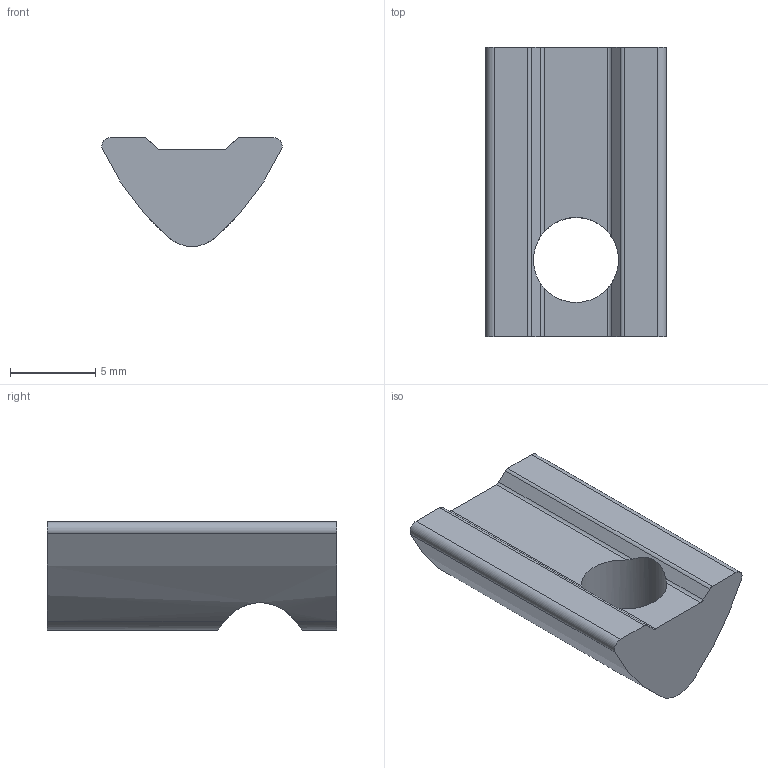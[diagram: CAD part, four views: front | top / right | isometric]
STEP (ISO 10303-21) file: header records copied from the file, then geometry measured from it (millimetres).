
FILE_DESCRIPTION( ( 'Unknown' ), '1' );
FILE_NAME( 'C:/Users/Fabrizio/Desktop/DISEGNI ACCESSORI FP SOLIDEDGE/CA.02.05.005.stp', 'Unknown', ( 'Unknown' ), ( 'Unknown' ), 'PSStep 13.0', 'Unknown', ' ' );
FILE_SCHEMA( ( 'AUTOMOTIVE_DESIGN { 1 0 10303 214 1 1 1 1 }' ) );
Length unit declared in the file: millimetre
Products named in the file (1): 0.0.419.43_1
Bounding box: 10.6 x 17 x 6.4 mm (x, y, z)
Volume: 613.4 mm3; surface area: 597.4 mm2
Topology: 1 solids, 1 shells, 23 faces, 68 edges, 45 vertices
Faces by surface type: cylinder 15, plane 8
Full cylindrical faces by diameter (mm): 5 x1
Entity records: 1368 total; most frequent: CARTESIAN_POINT 224, ORIENTED_EDGE 132, DIRECTION 128, STYLED_ITEM 89, PRESENTATION_STYLE_ASSIGNMENT 89, COLOUR_RGB 89, EDGE_CURVE 66, CURVE_STYLE 66
